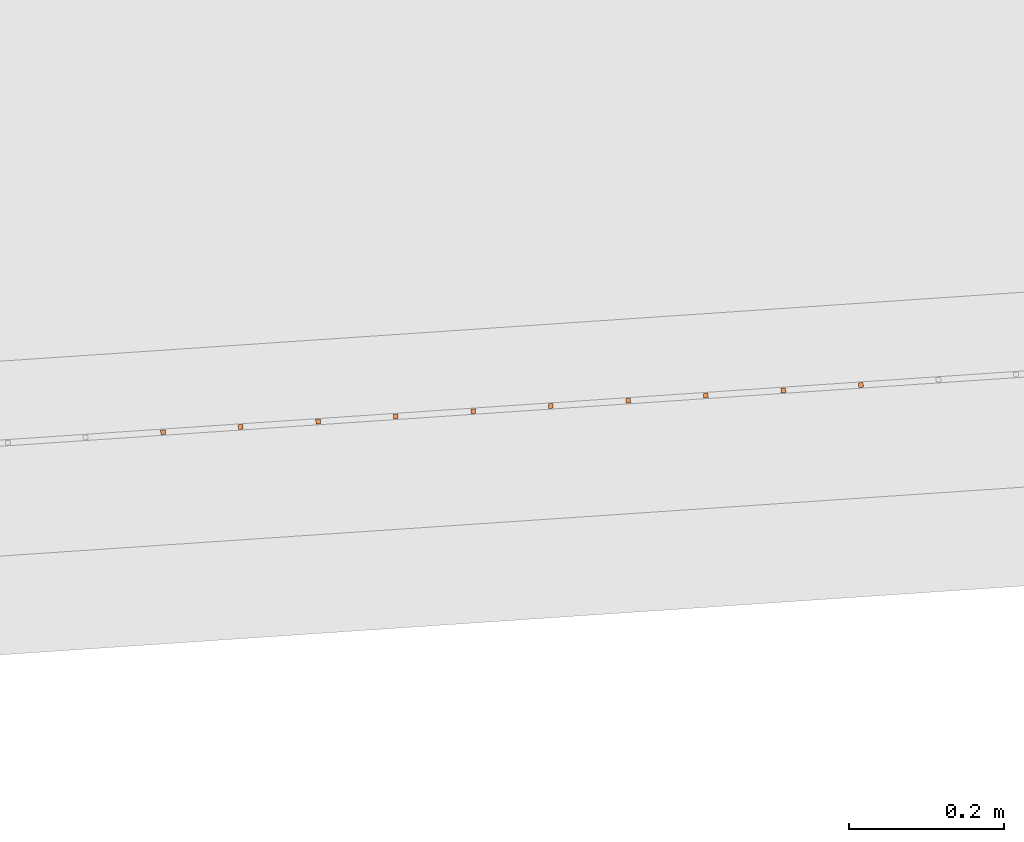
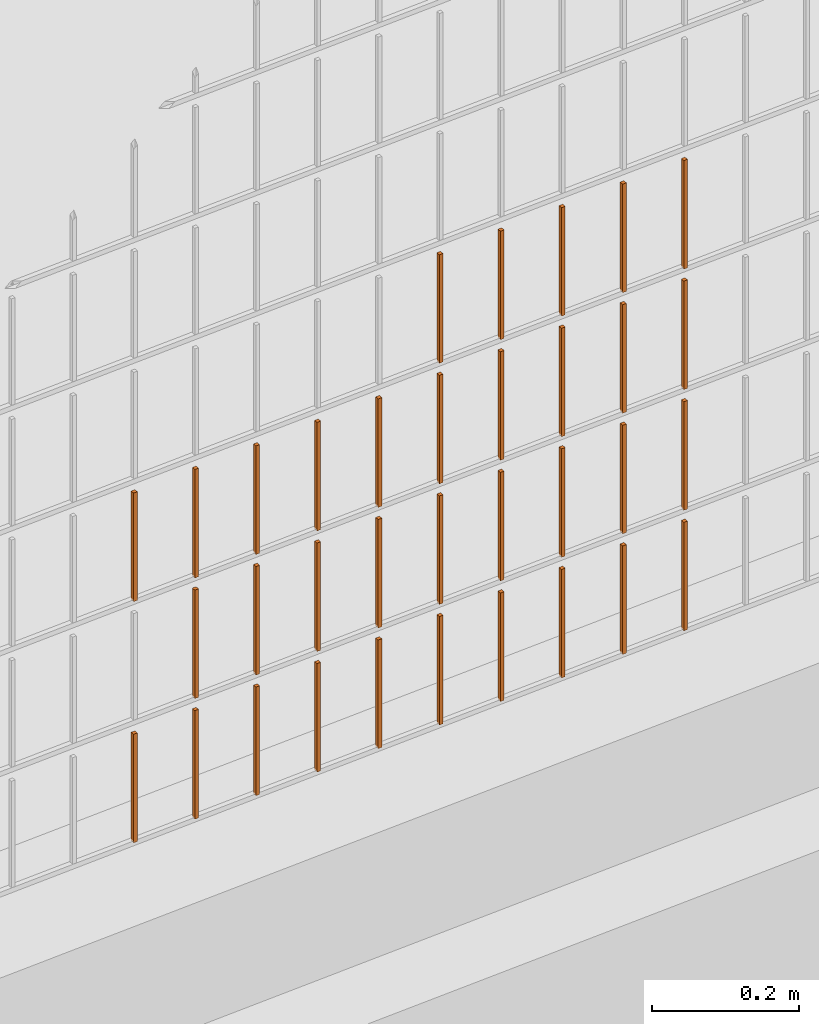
# One storey, part 340 of 1809: 34 proxies, 1 element without a shape of its own.
"""IFC2X3 building model written with IfcOpenShell, lengths in millimetres."""

import ifcopenshell
import ifcopenshell.guid

model = None  # the IFC model being written
_history = None  # IfcOwnerHistory: only IFC2X3 demands one
_inside = {}  # id of a spatial element -> (the spatial element, [elements in it])
_under = {}  # id of a project, library or spatial element -> (it, [spatial elements below it])
_declared = {}  # id of a project -> (the project, [libraries it declares])
_typed = {}  # id of a type object -> (the type object, [elements of that type])
_made_of = {}  # id of a material, layer set ... -> (it, [elements and type objects made of it])


def new_model(schema):
    """Start an empty IFC model of exactly this schema.

    Asked for "IFC4X3", IfcOpenShell would pick the latest addendum, in which some entities
    have other attributes; the version numbers below select the first issue.
    IFC2X3 requires an IfcOwnerHistory on every rooted entity: one is made here for all.
    """
    global model, _history
    if schema == "IFC4X3":
        model = ifcopenshell.file(schema_version=(4, 3, 0, 0))
    else:
        model = ifcopenshell.file(schema=schema)
    _inside.clear()
    _under.clear()
    _declared.clear()
    _typed.clear()
    _made_of.clear()
    _history = None
    if model.schema == "IFC2X3":
        org = make("IfcOrganization", Name="unknown")
        user = make(
            "IfcPersonAndOrganization",
            ThePerson=make("IfcPerson", FamilyName="unknown"),
            TheOrganization=org,
        )
        app = make(
            "IfcApplication",
            ApplicationDeveloper=org,
            Version="unknown",
            ApplicationFullName="unknown",
            ApplicationIdentifier="unknown",
        )
        _history = make(
            "IfcOwnerHistory",
            OwningUser=user,
            OwningApplication=app,
            ChangeAction="ADDED",
            CreationDate=0,
        )
    return model


def make(cls, **values):
    """One entity of the class cls with the attributes given. An attribute that is None is left unset."""
    return model.create_entity(
        cls, **{name: value for name, value in values.items() if value is not None}
    )


def entity(cls, *values):
    """Any entity or typed value of the class cls, its attributes in the order of the schema. None: left unset."""
    e = model.create_entity(cls)
    for i, value in enumerate(values):
        if value is not None:
            e[i] = value
    return e


def rooted(cls, **values):
    """An entity with a GlobalId (a new one), such as an element, a storey or a relation."""
    return make(cls, GlobalId=ifcopenshell.guid.new(), OwnerHistory=_history, **values)


def si_unit(unit_type, name, prefix=None):
    """IfcSIUnit, for example si_unit("LENGTHUNIT", "METRE", prefix="MILLI")."""
    return make("IfcSIUnit", UnitType=unit_type, Prefix=prefix, Name=name)


def converted_unit(unit_type, name, factor, base, dimensions=None, offset=None):
    """IfcConversionBasedUnit, such as the inch: factor (a typed value) times the base unit."""
    return make(
        "IfcConversionBasedUnit"
        if offset is None
        else "IfcConversionBasedUnitWithOffset",
        ConversionOffset=offset,
        Dimensions=None
        if dimensions is None
        else entity("IfcDimensionalExponents", *dimensions),
        UnitType=unit_type,
        Name=name,
        ConversionFactor=make(
            "IfcMeasureWithUnit", ValueComponent=factor, UnitComponent=base
        ),
    )


def derived_unit(unit_type, elements):
    """IfcDerivedUnit: a product of units, each with its exponent."""
    return make(
        "IfcDerivedUnit",
        Elements=[
            make("IfcDerivedUnitElement", Unit=unit, Exponent=power)
            for unit, power in elements
        ],
        UnitType=unit_type,
    )


def money_unit(currency):
    """IfcMonetaryUnit."""
    return make("IfcMonetaryUnit", Currency=currency)


def assignment(units):
    """IfcUnitAssignment: the units of a project."""
    return None if units is None else make("IfcUnitAssignment", Units=units)


def point(xyz):
    """IfcCartesianPoint."""
    return None if xyz is None else make("IfcCartesianPoint", Coordinates=xyz)


def direction(xyz):
    """IfcDirection."""
    return None if xyz is None else make("IfcDirection", DirectionRatios=xyz)


def frame(location, z_axis=None, x_axis=None):
    """IfcAxis2Placement3D, a coordinate frame: its origin and axes. An axis left out is left unset."""
    return make(
        "IfcAxis2Placement3D",
        Location=point(location),
        Axis=direction(z_axis),
        RefDirection=direction(x_axis),
    )


def origin_with_axes():
    """The frame at (0, 0, 0) with the z axis (0, 0, 1) and the x axis (1, 0, 0) written out."""
    return frame((0.0, 0.0, 0.0), z_axis=(0.0, 0.0, 1.0), x_axis=(1.0, 0.0, 0.0))


def place(relative_to, where):
    """IfcLocalPlacement: puts the frame where relative to a parent placement (None: the world)."""
    return make(
        "IfcLocalPlacement", PlacementRelTo=relative_to, RelativePlacement=where
    )


def context(
    kind, dimensions, precision=None, world=None, true_north=None, identifier=None
):
    """IfcGeometricRepresentationContext, for example the 3D "Model" context."""
    return make(
        "IfcGeometricRepresentationContext",
        ContextIdentifier=identifier,
        ContextType=kind,
        CoordinateSpaceDimension=dimensions,
        Precision=precision,
        WorldCoordinateSystem=world,
        TrueNorth=true_north,
    )


def subcontext(parent, identifier, kind, view, scale=None):
    """IfcGeometricRepresentationSubContext, for example "Body" below "Model"."""
    return make(
        "IfcGeometricRepresentationSubContext",
        ContextIdentifier=identifier,
        ContextType=kind,
        ParentContext=parent,
        TargetScale=scale,
        TargetView=view,
    )


def project(units=None, contexts=None):
    """IfcProject with its units and contexts."""
    return rooted(
        "IfcProject",
        Name="project",
        RepresentationContexts=contexts,
        UnitsInContext=assignment(units),
    )


def spatial(cls, under=None, at=None, **own):
    """A site, building, storey or space (cls), placed at a placement, below another one or the project."""
    s = rooted(cls, ObjectPlacement=at, **own)
    if under is not None:
        _under.setdefault(under.id(), (under, []))[1].append(s)
    return s


def faces_of(points, faces, orient=None, outer=None):
    """IfcFace entities. A face is a list of loops; a loop is a list of indices into points, from 0.

    orient and outer hold one flag for each loop. By default every Orientation is true, the
    first loop of a face is its IfcFaceOuterBound and the others are IfcFaceBound.
    """
    made = []
    for i, loops in enumerate(faces):
        bounds = []
        for j, loop in enumerate(loops):
            is_outer = j == 0 if outer is None else outer[i][j]
            bounds.append(
                make(
                    "IfcFaceOuterBound" if is_outer else "IfcFaceBound",
                    Bound=make("IfcPolyLoop", Polygon=[points[k] for k in loop]),
                    Orientation=True if orient is None else orient[i][j],
                )
            )
        made.append(make("IfcFace", Bounds=bounds))
    return made


def faceted_brep(points, faces, orient=None, outer=None, voids=None):
    """IfcFacetedBrep: a solid bounded by flat faces; with voids (closed shells), ...WithVoids."""
    shared = [point(p) for p in points]
    hull = make("IfcClosedShell", CfsFaces=faces_of(shared, faces, orient, outer))
    if voids is None:
        return make("IfcFacetedBrep", Outer=hull)
    return make(
        "IfcFacetedBrepWithVoids",
        Outer=hull,
        Voids=[
            make(cls, CfsFaces=faces_of(shared, fs, o, b)) for cls, fs, o, b in voids
        ],
    )


def shape(context_of_items, identifier, shape_type, items):
    """IfcShapeRepresentation: the items that make up one representation, for example the "Body"."""
    return make(
        "IfcShapeRepresentation",
        ContextOfItems=context_of_items,
        RepresentationIdentifier=identifier,
        RepresentationType=shape_type,
        Items=items,
    )


def source(mapping_origin, context_of_items, identifier, shape_type, items):
    """IfcRepresentationMap: a shape defined once, which mapped items show again and again."""
    return make(
        "IfcRepresentationMap",
        MappingOrigin=mapping_origin,
        MappedRepresentation=shape(context_of_items, identifier, shape_type, items),
    )


def transform(
    local_origin,
    x_axis=None,
    y_axis=None,
    z_axis=None,
    scale=None,
    scale2=None,
    scale3=None,
    uniform=True,
):
    """IfcCartesianTransformationOperator3D, or its non-uniform kind. x_axis, y_axis, z_axis: its Axis1, 2, 3."""
    if uniform:
        return make(
            "IfcCartesianTransformationOperator3D",
            Axis1=direction(x_axis),
            Axis2=direction(y_axis),
            LocalOrigin=point(local_origin),
            Scale=scale,
            Axis3=direction(z_axis),
        )
    return make(
        "IfcCartesianTransformationOperator3DnonUniform",
        Axis1=direction(x_axis),
        Axis2=direction(y_axis),
        LocalOrigin=point(local_origin),
        Scale=scale,
        Axis3=direction(z_axis),
        Scale2=scale2,
        Scale3=scale3,
    )


def mapped(mapping_source, mapping_target):
    """IfcMappedItem: shows the shape of a source again, moved by a transform."""
    return make(
        "IfcMappedItem", MappingSource=mapping_source, MappingTarget=mapping_target
    )


def material(Name=None, Category=None):
    """IfcMaterial."""
    return make("IfcMaterial", Name=Name, Category=Category)


def made_of(thing, what):
    """Note that an element or type object is made of a material, layer set ...; save() writes the relation."""
    if what is not None:
        _made_of.setdefault(what.id(), (what, []))[1].append(thing)
    return thing


def type_object(cls, material=None, **own):
    """A type object (cls), such as IfcWallType, which elements share."""
    return made_of(rooted(cls, **own), material)


def element(
    cls,
    number,
    at=None,
    inside=None,
    cuts=None,
    type_object=None,
    material=None,
    context=None,
    identifier="Body",
    shape_type=None,
    held_by="IfcProductDefinitionShape",
    body=None,
    shapes=None,
    **own,
):
    """One element of the class cls, such as IfcWall. Its Tag is "e" and its number.

    at: its placement. inside: the storey or other place that contains it. cuts: it is an
    opening in that element (IfcRelVoidsElement). A single representation is given by context,
    identifier, shape_type and body (its items); several are given by shapes. held_by: the class
    of the entity that holds the representations. save() writes the other relations.
    """
    e = rooted(cls, Tag="e%d" % number, ObjectPlacement=at, **own)
    if body is not None:
        shapes = [shape(context, identifier, shape_type, body)]
    if shapes is not None:
        e.Representation = make(held_by, Representations=shapes)
    if inside is not None:
        _inside.setdefault(inside.id(), (inside, []))[1].append(e)
    if cuts is not None:
        rooted(
            "IfcRelVoidsElement", RelatingBuildingElement=cuts, RelatedOpeningElement=e
        )
    if type_object is not None:
        _typed.setdefault(type_object.id(), (type_object, []))[1].append(e)
    return made_of(e, material)


def aggregate(whole, parts):
    """IfcRelAggregates: a whole, such as a stair, and the parts it consists of."""
    return rooted("IfcRelAggregates", RelatingObject=whole, RelatedObjects=parts)


def save(model, path):
    """Write the relations noted so far, then the file.

    IfcRelAggregates (storeys below a building ...), IfcRelContainedInSpatialStructure (elements
    in a storey), IfcRelDefinesByType, IfcRelAssociatesMaterial and IfcRelDeclares: one each for
    every whole, place, type object, material and project.
    """
    for whole, parts in _under.values():
        aggregate(whole, parts)
    for where, things in _inside.values():
        rooted(
            "IfcRelContainedInSpatialStructure",
            RelatedElements=things,
            RelatingStructure=where,
        )
    for kind, things in _typed.values():
        rooted("IfcRelDefinesByType", RelatedObjects=things, RelatingType=kind)
    for what, things in _made_of.values():
        rooted("IfcRelAssociatesMaterial", RelatedObjects=things, RelatingMaterial=what)
    for by, libraries in _declared.values():
        rooted("IfcRelDeclares", RelatingContext=by, RelatedDefinitions=libraries)
    model.write(path)


model = new_model("IFC2X3")

# Units and contexts
model_context = context("Model", 3, precision=0.01, world=origin_with_axes(), true_north=direction((0.0, 1.0)))
body_context = subcontext(model_context, "Body", "Model", "MODEL_VIEW")
ifc_project = project(units=[si_unit("LENGTHUNIT", "METRE", prefix="MILLI"), si_unit("AREAUNIT", "SQUARE_METRE"), si_unit("VOLUMEUNIT", "CUBIC_METRE"), converted_unit("PLANEANGLEUNIT", "DEGREE", entity("IfcPlaneAngleMeasure", 0.0174532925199), si_unit("PLANEANGLEUNIT", "RADIAN"), dimensions=[0, 0, 0, 0, 0, 0, 0]), si_unit("SOLIDANGLEUNIT", "STERADIAN"), money_unit("EUR"), converted_unit("TIMEUNIT", "Year", entity("IfcTimeMeasure", 31556926.0), si_unit("TIMEUNIT", "SECOND"), dimensions=[0, 0, 1, 0, 0, 0, 0]), si_unit("MASSUNIT", "GRAM", prefix="KILO"), si_unit("THERMODYNAMICTEMPERATUREUNIT", "DEGREE_CELSIUS"), si_unit("LUMINOUSINTENSITYUNIT", "LUMEN"), si_unit("ENERGYUNIT", "JOULE", prefix="MEGA"), derived_unit("THERMALCONDUCTANCEUNIT", [(si_unit("POWERUNIT", "WATT"), 1), (si_unit("LENGTHUNIT", "METRE"), -1), (si_unit("THERMODYNAMICTEMPERATUREUNIT", "KELVIN"), -1)]), derived_unit("SPECIFICHEATCAPACITYUNIT", [(si_unit("ENERGYUNIT", "JOULE"), 1), (si_unit("MASSUNIT", "GRAM", prefix="KILO"), -1), (si_unit("THERMODYNAMICTEMPERATUREUNIT", "KELVIN"), -1)]), derived_unit("MASSDENSITYUNIT", [(si_unit("MASSUNIT", "GRAM", prefix="KILO"), 1), (si_unit("VOLUMEUNIT", "CUBIC_METRE"), -1)])], contexts=[model_context])

# Site, building, storey
site_placement = place(None, origin_with_axes())
site = spatial("IfcSite", under=ifc_project, at=site_placement, Name="Politse- ja Piirivalveameti ning Päästeameti ühishoone", CompositionType="ELEMENT")
building_placement = place(site_placement, origin_with_axes())
building = spatial("IfcBuilding", under=site, at=building_placement, Name="Politse- ja Piirivalveameti ning Päästeameti ühishoone", CompositionType="ELEMENT")
storey_placement = place(building_placement, origin_with_axes())
storey = spatial("IfcBuildingStorey", under=building, at=storey_placement, Name="Esimene korrus", CompositionType="ELEMENT", Elevation=0.0)

# Proxies
building_element_proxy_type_1 = type_object("IfcBuildingElementProxyType", Name="Railing Type", PredefinedType="NOTDEFINED")
proxy_1_placement = place(storey_placement, frame((89252.001212, -29183.4766571, 203.661247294), z_axis=(0.0, 0.0, 1.0), x_axis=(1.0, 0.0, 0.0)))
proxy_1 = element("IfcBuildingElementProxy", 1, at=proxy_1_placement, inside=storey, type_object=building_element_proxy_type_1, Name="PIIRDEAED")
ifc_material = material(Name="ET-03_Raud")
building_element_proxy_type_2 = type_object("IfcBuildingElementProxyType", Name="IfcBuildingElementProxy", PredefinedType="NOTDEFINED")
shared_shape_1 = source(origin_with_axes(), body_context, "Body", "Brep", [
    faceted_brep([(3.0, 3.0, -0.000752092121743), (-3.0, 3.0, -0.000752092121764), (-3.0, 3.0, 179.99926046), (3.0, 3.0, 179.99926046), (3.0, -3.0, 0.000752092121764), (-3.0, -3.0, 0.000752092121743), (-3.0, -3.0, 180.000764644), (3.0, -3.0, 180.000764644)], [[[0, 1, 2, 3]], [[0, 4, 5, 1]], [[1, 5, 6, 2]], [[3, 2, 6, 7]], [[4, 0, 3, 7]], [[5, 4, 7, 6]]]),
])
proxy_2_placement = place(proxy_1_placement, frame((-30557.0591203, -19361.788787, 19.5563552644), z_axis=(0.0, 0.0, 1.0), x_axis=(1.0, 0.0, 0.0)))
proxy_2 = element("IfcBuildingElementProxy", 2, at=proxy_2_placement, type_object=building_element_proxy_type_2, material=ifc_material, Name="BALUSTER - 001", context=body_context, shape_type="MappedRepresentation", body=[
    mapped(shared_shape_1, transform((0.0, 0.0, 0.0), x_axis=(-0.0673926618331, 0.997726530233, 0.0), y_axis=(-0.997726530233, -0.0673926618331, 0.0), z_axis=(0.0, 0.0, 1.0))),
])
shared_shape_2 = source(origin_with_axes(), body_context, "Body", "Brep", [
    faceted_brep([(3.0, 3.0, -0.000752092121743), (-3.0, 3.0, -0.000752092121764), (-3.0, 3.0, 179.99926046), (3.0, 3.0, 179.99926046), (3.0, -3.0, 0.000752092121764), (-3.0, -3.0, 0.000752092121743), (-3.0, -3.0, 180.000764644), (3.0, -3.0, 180.000764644)], [[[0, 1, 2, 3]], [[0, 4, 5, 1]], [[1, 5, 6, 2]], [[3, 2, 6, 7]], [[4, 0, 3, 7]], [[5, 4, 7, 6]]]),
])
proxy_3_placement = place(proxy_1_placement, frame((-30557.0591203, -19361.788787, 219.556355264), z_axis=(0.0, 0.0, 1.0), x_axis=(1.0, 0.0, 0.0)))
proxy_3 = element("IfcBuildingElementProxy", 3, at=proxy_3_placement, type_object=building_element_proxy_type_2, material=ifc_material, Name="BALUSTER - 001", context=body_context, shape_type="MappedRepresentation", body=[
    mapped(shared_shape_2, transform((0.0, 0.0, 0.0), x_axis=(-0.0673926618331, 0.997726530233, 0.0), y_axis=(-0.997726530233, -0.0673926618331, 0.0), z_axis=(0.0, 0.0, 1.0))),
])
shared_shape_3 = source(origin_with_axes(), body_context, "Body", "Brep", [
    faceted_brep([(3.0, 3.0, -0.000752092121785), (-3.0, 3.0, -0.000752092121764), (-3.0, 3.0, 179.99926046), (3.0, 3.0, 179.99926046), (3.0, -3.0, 0.000752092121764), (-3.0, -3.0, 0.000752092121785), (-3.0, -3.0, 180.000764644), (3.0, -3.0, 180.000764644)], [[[0, 1, 2, 3]], [[0, 4, 5, 1]], [[1, 5, 6, 2]], [[3, 2, 6, 7]], [[4, 0, 3, 7]], [[5, 4, 7, 6]]]),
])
proxy_4_placement = place(proxy_1_placement, frame((-30257.7411612, -19341.5709885, 419.631564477), z_axis=(0.0, 0.0, 1.0), x_axis=(1.0, 0.0, 0.0)))
proxy_4 = element("IfcBuildingElementProxy", 4, at=proxy_4_placement, type_object=building_element_proxy_type_2, material=ifc_material, Name="BALUSTER - 001", context=body_context, shape_type="MappedRepresentation", body=[
    mapped(shared_shape_3, transform((0.0, 0.0, 0.0), x_axis=(-0.0673926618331, 0.997726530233, 0.0), y_axis=(-0.997726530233, -0.0673926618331, 0.0), z_axis=(0.0, 0.0, 1.0))),
])
shared_shape_4 = source(origin_with_axes(), body_context, "Body", "Brep", [
    faceted_brep([(3.0, 3.0, -0.000752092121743), (-3.0, 3.0, -0.000752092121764), (-3.0, 3.0, 179.99926046), (3.0, 3.0, 179.99926046), (3.0, -3.0, 0.000752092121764), (-3.0, -3.0, 0.000752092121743), (-3.0, -3.0, 180.000764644), (3.0, -3.0, 180.000764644)], [[[0, 1, 2, 3]], [[0, 4, 5, 1]], [[1, 5, 6, 2]], [[3, 2, 6, 7]], [[4, 0, 3, 7]], [[5, 4, 7, 6]]]),
])
proxy_5_placement = place(proxy_1_placement, frame((-30557.0591203, -19361.788787, 419.556355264), z_axis=(0.0, 0.0, 1.0), x_axis=(1.0, 0.0, 0.0)))
proxy_5 = element("IfcBuildingElementProxy", 5, at=proxy_5_placement, type_object=building_element_proxy_type_2, material=ifc_material, Name="BALUSTER - 001", context=body_context, shape_type="MappedRepresentation", body=[
    mapped(shared_shape_4, transform((0.0, 0.0, 0.0), x_axis=(-0.0673926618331, 0.997726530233, 0.0), y_axis=(-0.997726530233, -0.0673926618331, 0.0), z_axis=(0.0, 0.0, 1.0))),
])
shared_shape_5 = source(origin_with_axes(), body_context, "Body", "Brep", [
    faceted_brep([(3.0, 3.0, -0.000752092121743), (-3.0, 3.0, -0.000752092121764), (-3.0, 3.0, 179.99926046), (3.0, 3.0, 179.99926046), (3.0, -3.0, 0.000752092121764), (-3.0, -3.0, 0.000752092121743), (-3.0, -3.0, 180.000764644), (3.0, -3.0, 180.000764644)], [[[0, 1, 2, 3]], [[0, 4, 5, 1]], [[1, 5, 6, 2]], [[3, 2, 6, 7]], [[4, 0, 3, 7]], [[5, 4, 7, 6]]]),
])
proxy_6_placement = place(proxy_1_placement, frame((-30557.0591203, -19361.788787, 619.556355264), z_axis=(0.0, 0.0, 1.0), x_axis=(1.0, 0.0, 0.0)))
proxy_6 = element("IfcBuildingElementProxy", 6, at=proxy_6_placement, type_object=building_element_proxy_type_2, material=ifc_material, Name="BALUSTER - 001", context=body_context, shape_type="MappedRepresentation", body=[
    mapped(shared_shape_5, transform((0.0, 0.0, 0.0), x_axis=(-0.0673926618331, 0.997726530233, 0.0), y_axis=(-0.997726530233, -0.0673926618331, 0.0), z_axis=(0.0, 0.0, 1.0))),
])
shared_shape_6 = source(origin_with_axes(), body_context, "Body", "Brep", [
    faceted_brep([(3.0, 3.0, -0.000752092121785), (-3.0, 3.0, -0.000752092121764), (-3.0, 3.0, 179.99926046), (3.0, 3.0, 179.99926046), (3.0, -3.0, 0.000752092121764), (-3.0, -3.0, 0.000752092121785), (-3.0, -3.0, 180.000764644), (3.0, -3.0, 180.000764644)], [[[0, 1, 2, 3]], [[0, 4, 5, 1]], [[1, 5, 6, 2]], [[3, 2, 6, 7]], [[4, 0, 3, 7]], [[5, 4, 7, 6]]]),
])
proxy_7_placement = place(proxy_1_placement, frame((-30257.7411612, -19341.5709885, 619.631564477), z_axis=(0.0, 0.0, 1.0), x_axis=(1.0, 0.0, 0.0)))
proxy_7 = element("IfcBuildingElementProxy", 7, at=proxy_7_placement, type_object=building_element_proxy_type_2, material=ifc_material, Name="BALUSTER - 001", context=body_context, shape_type="MappedRepresentation", body=[
    mapped(shared_shape_6, transform((0.0, 0.0, 0.0), x_axis=(-0.0673926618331, 0.997726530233, 0.0), y_axis=(-0.997726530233, -0.0673926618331, 0.0), z_axis=(0.0, 0.0, 1.0))),
])
shared_shape_7 = source(origin_with_axes(), body_context, "Body", "Brep", [
    faceted_brep([(3.0, 3.0, -0.000752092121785), (-3.0, 3.0, -0.000752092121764), (-3.0, 3.0, 179.99926046), (3.0, 3.0, 179.99926046), (3.0, -3.0, 0.000752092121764), (-3.0, -3.0, 0.000752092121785), (-3.0, -3.0, 180.000764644), (3.0, -3.0, 180.000764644)], [[[0, 1, 2, 3]], [[0, 4, 5, 1]], [[1, 5, 6, 2]], [[3, 2, 6, 7]], [[4, 0, 3, 7]], [[5, 4, 7, 6]]]),
])
proxy_8_placement = place(proxy_1_placement, frame((-30257.7411612, -19341.5709885, 19.6315644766), z_axis=(0.0, 0.0, 1.0), x_axis=(1.0, 0.0, 0.0)))
proxy_8 = element("IfcBuildingElementProxy", 8, at=proxy_8_placement, type_object=building_element_proxy_type_2, material=ifc_material, Name="BALUSTER - 001", context=body_context, shape_type="MappedRepresentation", body=[
    mapped(shared_shape_7, transform((0.0, 0.0, 0.0), x_axis=(-0.0673926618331, 0.997726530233, 0.0), y_axis=(-0.997726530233, -0.0673926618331, 0.0), z_axis=(0.0, 0.0, 1.0))),
])
shared_shape_8 = source(origin_with_axes(), body_context, "Body", "Brep", [
    faceted_brep([(3.0, 3.0, -0.000752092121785), (-3.0, 3.0, -0.000752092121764), (-3.0, 3.0, 179.99926046), (3.0, 3.0, 179.99926046), (3.0, -3.0, 0.000752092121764), (-3.0, -3.0, 0.000752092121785), (-3.0, -3.0, 180.000764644), (3.0, -3.0, 180.000764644)], [[[0, 1, 2, 3]], [[0, 4, 5, 1]], [[1, 5, 6, 2]], [[3, 2, 6, 7]], [[4, 0, 3, 7]], [[5, 4, 7, 6]]]),
])
proxy_9_placement = place(proxy_1_placement, frame((-30257.7411612, -19341.5709885, 219.631564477), z_axis=(0.0, 0.0, 1.0), x_axis=(1.0, 0.0, 0.0)))
proxy_9 = element("IfcBuildingElementProxy", 9, at=proxy_9_placement, type_object=building_element_proxy_type_2, material=ifc_material, Name="BALUSTER - 001", context=body_context, shape_type="MappedRepresentation", body=[
    mapped(shared_shape_8, transform((0.0, 0.0, 0.0), x_axis=(-0.0673926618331, 0.997726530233, 0.0), y_axis=(-0.997726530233, -0.0673926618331, 0.0), z_axis=(0.0, 0.0, 1.0))),
])
shared_shape_9 = source(origin_with_axes(), body_context, "Body", "Brep", [
    faceted_brep([(3.0, 3.0, -0.000752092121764), (-3.0, 3.0, -0.000752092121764), (-3.0, 3.0, 179.99926046), (3.0, 3.0, 179.99926046), (3.0, -3.0, 0.000752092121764), (-3.0, -3.0, 0.000752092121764), (-3.0, -3.0, 180.000764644), (3.0, -3.0, 180.000764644)], [[[0, 1, 2, 3]], [[0, 4, 5, 1]], [[1, 5, 6, 2]], [[3, 2, 6, 7]], [[4, 0, 3, 7]], [[5, 4, 7, 6]]]),
])
proxy_10_placement = place(proxy_1_placement, frame((-30856.3770794, -19382.0065856, 19.4811460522), z_axis=(0.0, 0.0, 1.0), x_axis=(1.0, 0.0, 0.0)))
proxy_10 = element("IfcBuildingElementProxy", 10, at=proxy_10_placement, type_object=building_element_proxy_type_2, material=ifc_material, Name="BALUSTER - 001", context=body_context, shape_type="MappedRepresentation", body=[
    mapped(shared_shape_9, transform((0.0, 0.0, 0.0), x_axis=(-0.0673926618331, 0.997726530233, 0.0), y_axis=(-0.997726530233, -0.0673926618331, 0.0), z_axis=(0.0, 0.0, 1.0))),
])
shared_shape_10 = source(origin_with_axes(), body_context, "Body", "Brep", [
    faceted_brep([(3.0, 3.0, -0.000752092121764), (-3.0, 3.0, -0.000752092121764), (-3.0, 3.0, 179.99926046), (3.0, 3.0, 179.99926046), (3.0, -3.0, 0.000752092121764), (-3.0, -3.0, 0.000752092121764), (-3.0, -3.0, 180.000764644), (3.0, -3.0, 180.000764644)], [[[0, 1, 2, 3]], [[0, 4, 5, 1]], [[1, 5, 6, 2]], [[3, 2, 6, 7]], [[4, 0, 3, 7]], [[5, 4, 7, 6]]]),
])
proxy_11_placement = place(proxy_1_placement, frame((-30856.3770794, -19382.0065856, 219.481146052), z_axis=(0.0, 0.0, 1.0), x_axis=(1.0, 0.0, 0.0)))
proxy_11 = element("IfcBuildingElementProxy", 11, at=proxy_11_placement, type_object=building_element_proxy_type_2, material=ifc_material, Name="BALUSTER - 001", context=body_context, shape_type="MappedRepresentation", body=[
    mapped(shared_shape_10, transform((0.0, 0.0, 0.0), x_axis=(-0.0673926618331, 0.997726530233, 0.0), y_axis=(-0.997726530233, -0.0673926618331, 0.0), z_axis=(0.0, 0.0, 1.0))),
])
proxy_12_placement = place(proxy_1_placement, frame((-30856.3770794, -19382.0065856, 419.481146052), z_axis=(0.0, 0.0, 1.0), x_axis=(1.0, 0.0, 0.0)))
proxy_12 = element("IfcBuildingElementProxy", 12, at=proxy_12_placement, type_object=building_element_proxy_type_2, material=ifc_material, Name="BALUSTER - 001", context=body_context, shape_type="MappedRepresentation", body=[
    mapped(shared_shape_10, transform((0.0, 0.0, 0.0), x_axis=(-0.0673926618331, 0.997726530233, 0.0), y_axis=(-0.997726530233, -0.0673926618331, 0.0), z_axis=(0.0, 0.0, 1.0))),
])
proxy_13_placement = place(proxy_1_placement, frame((-30956.1497324, -19388.7458517, 419.456076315), z_axis=(0.0, 0.0, 1.0), x_axis=(1.0, 0.0, 0.0)))
proxy_13 = element("IfcBuildingElementProxy", 13, at=proxy_13_placement, type_object=building_element_proxy_type_2, material=ifc_material, Name="BALUSTER - 001", context=body_context, shape_type="MappedRepresentation", body=[
    mapped(shared_shape_10, transform((0.0, 0.0, 0.0), x_axis=(-0.0673926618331, 0.997726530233, 0.0), y_axis=(-0.997726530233, -0.0673926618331, 0.0), z_axis=(0.0, 0.0, 1.0))),
])
shared_shape_11 = source(origin_with_axes(), body_context, "Body", "Brep", [
    faceted_brep([(3.0, 3.0, -0.000752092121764), (-3.0, 3.0, -0.000752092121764), (-3.0, 3.0, 179.99926046), (3.0, 3.0, 179.99926046), (3.0, -3.0, 0.000752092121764), (-3.0, -3.0, 0.000752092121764), (-3.0, -3.0, 180.000764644), (3.0, -3.0, 180.000764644)], [[[0, 1, 2, 3]], [[0, 4, 5, 1]], [[1, 5, 6, 2]], [[3, 2, 6, 7]], [[4, 0, 3, 7]], [[5, 4, 7, 6]]]),
])
proxy_14_placement = place(proxy_1_placement, frame((-30457.2864673, -19355.0495208, 219.581425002), z_axis=(0.0, 0.0, 1.0), x_axis=(1.0, 0.0, 0.0)))
proxy_14 = element("IfcBuildingElementProxy", 14, at=proxy_14_placement, type_object=building_element_proxy_type_2, material=ifc_material, Name="BALUSTER - 001", context=body_context, shape_type="MappedRepresentation", body=[
    mapped(shared_shape_11, transform((0.0, 0.0, 0.0), x_axis=(-0.0673926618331, 0.997726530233, 0.0), y_axis=(-0.997726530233, -0.0673926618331, 0.0), z_axis=(0.0, 0.0, 1.0))),
])
proxy_15_placement = place(proxy_1_placement, frame((-30457.2864673, -19355.0495208, 619.581425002), z_axis=(0.0, 0.0, 1.0), x_axis=(1.0, 0.0, 0.0)))
proxy_15 = element("IfcBuildingElementProxy", 15, at=proxy_15_placement, type_object=building_element_proxy_type_2, material=ifc_material, Name="BALUSTER - 001", context=body_context, shape_type="MappedRepresentation", body=[
    mapped(shared_shape_11, transform((0.0, 0.0, 0.0), x_axis=(-0.0673926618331, 0.997726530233, 0.0), y_axis=(-0.997726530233, -0.0673926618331, 0.0), z_axis=(0.0, 0.0, 1.0))),
])
shared_shape_12 = source(origin_with_axes(), body_context, "Body", "Brep", [
    faceted_brep([(3.0, 3.0, -0.000752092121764), (-3.0, 3.0, -0.000752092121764), (-3.0, 3.0, 179.99926046), (3.0, 3.0, 179.99926046), (3.0, -3.0, 0.000752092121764), (-3.0, -3.0, 0.000752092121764), (-3.0, -3.0, 180.000764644), (3.0, -3.0, 180.000764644)], [[[0, 1, 2, 3]], [[0, 4, 5, 1]], [[1, 5, 6, 2]], [[3, 2, 6, 7]], [[4, 0, 3, 7]], [[5, 4, 7, 6]]]),
])
proxy_16_placement = place(proxy_1_placement, frame((-30357.5138143, -19348.3102546, 19.6064947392), z_axis=(0.0, 0.0, 1.0), x_axis=(1.0, 0.0, 0.0)))
proxy_16 = element("IfcBuildingElementProxy", 16, at=proxy_16_placement, type_object=building_element_proxy_type_2, material=ifc_material, Name="BALUSTER - 001", context=body_context, shape_type="MappedRepresentation", body=[
    mapped(shared_shape_12, transform((0.0, 0.0, 0.0), x_axis=(-0.0673926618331, 0.997726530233, 0.0), y_axis=(-0.997726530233, -0.0673926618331, 0.0), z_axis=(0.0, 0.0, 1.0))),
])
shared_shape_13 = source(origin_with_axes(), body_context, "Body", "Brep", [
    faceted_brep([(3.0, 3.0, -0.000752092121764), (-3.0, 3.0, -0.000752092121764), (-3.0, 3.0, 179.99926046), (3.0, 3.0, 179.99926046), (3.0, -3.0, 0.000752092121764), (-3.0, -3.0, 0.000752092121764), (-3.0, -3.0, 180.000764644), (3.0, -3.0, 180.000764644)], [[[0, 1, 2, 3]], [[0, 4, 5, 1]], [[1, 5, 6, 2]], [[3, 2, 6, 7]], [[4, 0, 3, 7]], [[5, 4, 7, 6]]]),
])
proxy_17_placement = place(proxy_1_placement, frame((-30357.5138143, -19348.3102546, 219.606494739), z_axis=(0.0, 0.0, 1.0), x_axis=(1.0, 0.0, 0.0)))
proxy_17 = element("IfcBuildingElementProxy", 17, at=proxy_17_placement, type_object=building_element_proxy_type_2, material=ifc_material, Name="BALUSTER - 001", context=body_context, shape_type="MappedRepresentation", body=[
    mapped(shared_shape_13, transform((0.0, 0.0, 0.0), x_axis=(-0.0673926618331, 0.997726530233, 0.0), y_axis=(-0.997726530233, -0.0673926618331, 0.0), z_axis=(0.0, 0.0, 1.0))),
])
proxy_18_placement = place(proxy_1_placement, frame((-30357.5138143, -19348.3102546, 419.606494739), z_axis=(0.0, 0.0, 1.0), x_axis=(1.0, 0.0, 0.0)))
proxy_18 = element("IfcBuildingElementProxy", 18, at=proxy_18_placement, type_object=building_element_proxy_type_2, material=ifc_material, Name="BALUSTER - 001", context=body_context, shape_type="MappedRepresentation", body=[
    mapped(shared_shape_13, transform((0.0, 0.0, 0.0), x_axis=(-0.0673926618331, 0.997726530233, 0.0), y_axis=(-0.997726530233, -0.0673926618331, 0.0), z_axis=(0.0, 0.0, 1.0))),
])
shared_shape_14 = source(origin_with_axes(), body_context, "Body", "Brep", [
    faceted_brep([(3.0, 3.0, -0.000752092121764), (-3.0, 3.0, -0.000752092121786), (-3.0, 3.0, 179.99926046), (3.0, 3.0, 179.99926046), (3.0, -3.0, 0.000752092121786), (-3.0, -3.0, 0.000752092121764), (-3.0, -3.0, 180.000764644), (3.0, -3.0, 180.000764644)], [[[0, 1, 2, 3]], [[0, 4, 5, 1]], [[1, 5, 6, 2]], [[3, 2, 6, 7]], [[4, 0, 3, 7]], [[5, 4, 7, 6]]]),
])
proxy_19_placement = place(proxy_1_placement, frame((-31155.6950385, -19402.2243841, 419.40593684), z_axis=(0.0, 0.0, 1.0), x_axis=(1.0, 0.0, 0.0)))
proxy_19 = element("IfcBuildingElementProxy", 19, at=proxy_19_placement, type_object=building_element_proxy_type_2, material=ifc_material, Name="BALUSTER - 001", context=body_context, shape_type="MappedRepresentation", body=[
    mapped(shared_shape_14, transform((0.0, 0.0, 0.0), x_axis=(-0.0673926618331, 0.997726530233, 0.0), y_axis=(-0.997726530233, -0.0673926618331, 0.0), z_axis=(0.0, 0.0, 1.0))),
])
shared_shape_15 = source(origin_with_axes(), body_context, "Body", "Brep", [
    faceted_brep([(3.0, 3.0, -0.000752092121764), (-3.0, 3.0, -0.000752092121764), (-3.0, 3.0, 179.99926046), (3.0, 3.0, 179.99926046), (3.0, -3.0, 0.000752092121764), (-3.0, -3.0, 0.000752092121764), (-3.0, -3.0, 180.000764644), (3.0, -3.0, 180.000764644)], [[[0, 1, 2, 3]], [[0, 4, 5, 1]], [[1, 5, 6, 2]], [[3, 2, 6, 7]], [[4, 0, 3, 7]], [[5, 4, 7, 6]]]),
])
proxy_20_placement = place(proxy_1_placement, frame((-30357.5138143, -19348.3102546, 619.606494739), z_axis=(0.0, 0.0, 1.0), x_axis=(1.0, 0.0, 0.0)))
proxy_20 = element("IfcBuildingElementProxy", 20, at=proxy_20_placement, type_object=building_element_proxy_type_2, material=ifc_material, Name="BALUSTER - 001", context=body_context, shape_type="MappedRepresentation", body=[
    mapped(shared_shape_15, transform((0.0, 0.0, 0.0), x_axis=(-0.0673926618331, 0.997726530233, 0.0), y_axis=(-0.997726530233, -0.0673926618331, 0.0), z_axis=(0.0, 0.0, 1.0))),
])
shared_shape_16 = source(origin_with_axes(), body_context, "Body", "Brep", [
    faceted_brep([(3.0, 3.0, -0.000752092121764), (-3.0, 3.0, -0.000752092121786), (-3.0, 3.0, 179.99926046), (3.0, 3.0, 179.99926046), (3.0, -3.0, 0.000752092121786), (-3.0, -3.0, 0.000752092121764), (-3.0, -3.0, 180.000764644), (3.0, -3.0, 180.000764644)], [[[0, 1, 2, 3]], [[0, 4, 5, 1]], [[1, 5, 6, 2]], [[3, 2, 6, 7]], [[4, 0, 3, 7]], [[5, 4, 7, 6]]]),
])
proxy_21_placement = place(proxy_1_placement, frame((-31155.6950385, -19402.2243841, 19.4059368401), z_axis=(0.0, 0.0, 1.0), x_axis=(1.0, 0.0, 0.0)))
proxy_21 = element("IfcBuildingElementProxy", 21, at=proxy_21_placement, type_object=building_element_proxy_type_2, material=ifc_material, Name="BALUSTER - 001", context=body_context, shape_type="MappedRepresentation", body=[
    mapped(shared_shape_16, transform((0.0, 0.0, 0.0), x_axis=(-0.0673926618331, 0.997726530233, 0.0), y_axis=(-0.997726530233, -0.0673926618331, 0.0), z_axis=(0.0, 0.0, 1.0))),
])
shared_shape_17 = source(origin_with_axes(), body_context, "Body", "Brep", [
    faceted_brep([(3.0, 3.0, -0.000752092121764), (-3.0, 3.0, -0.000752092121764), (-3.0, 3.0, 179.99926046), (3.0, 3.0, 179.99926046), (3.0, -3.0, 0.000752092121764), (-3.0, -3.0, 0.000752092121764), (-3.0, -3.0, 180.000764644), (3.0, -3.0, 180.000764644)], [[[0, 1, 2, 3]], [[0, 4, 5, 1]], [[1, 5, 6, 2]], [[3, 2, 6, 7]], [[4, 0, 3, 7]], [[5, 4, 7, 6]]]),
])
proxy_22_placement = place(proxy_1_placement, frame((-30956.1497324, -19388.7458517, 19.4560763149), z_axis=(0.0, 0.0, 1.0), x_axis=(1.0, 0.0, 0.0)))
proxy_22 = element("IfcBuildingElementProxy", 22, at=proxy_22_placement, type_object=building_element_proxy_type_2, material=ifc_material, Name="BALUSTER - 001", context=body_context, shape_type="MappedRepresentation", body=[
    mapped(shared_shape_17, transform((0.0, 0.0, 0.0), x_axis=(-0.0673926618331, 0.997726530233, 0.0), y_axis=(-0.997726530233, -0.0673926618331, 0.0), z_axis=(0.0, 0.0, 1.0))),
])
shared_shape_18 = source(origin_with_axes(), body_context, "Body", "Brep", [
    faceted_brep([(3.0, 3.0, -0.000752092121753), (-3.0, 3.0, -0.000752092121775), (-3.0, 3.0, 179.99926046), (3.0, 3.0, 179.99926046), (3.0, -3.0, 0.000752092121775), (-3.0, -3.0, 0.000752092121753), (-3.0, -3.0, 180.000764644), (3.0, -3.0, 180.000764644)], [[[0, 1, 2, 3]], [[0, 4, 5, 1]], [[1, 5, 6, 2]], [[3, 2, 6, 7]], [[4, 0, 3, 7]], [[5, 4, 7, 6]]]),
])
proxy_23_placement = place(proxy_1_placement, frame((-30656.8317733, -19368.5280532, 19.531285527), z_axis=(0.0, 0.0, 1.0), x_axis=(1.0, 0.0, 0.0)))
proxy_23 = element("IfcBuildingElementProxy", 23, at=proxy_23_placement, type_object=building_element_proxy_type_2, material=ifc_material, Name="BALUSTER - 001", context=body_context, shape_type="MappedRepresentation", body=[
    mapped(shared_shape_18, transform((0.0, 0.0, 0.0), x_axis=(-0.0673926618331, 0.997726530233, 0.0), y_axis=(-0.997726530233, -0.0673926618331, 0.0), z_axis=(0.0, 0.0, 1.0))),
])
shared_shape_19 = source(origin_with_axes(), body_context, "Body", "Brep", [
    faceted_brep([(3.0, 3.0, -0.000752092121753), (-3.0, 3.0, -0.000752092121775), (-3.0, 3.0, 179.99926046), (3.0, 3.0, 179.99926046), (3.0, -3.0, 0.000752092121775), (-3.0, -3.0, 0.000752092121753), (-3.0, -3.0, 180.000764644), (3.0, -3.0, 180.000764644)], [[[0, 1, 2, 3]], [[0, 4, 5, 1]], [[1, 5, 6, 2]], [[3, 2, 6, 7]], [[4, 0, 3, 7]], [[5, 4, 7, 6]]]),
])
proxy_24_placement = place(proxy_1_placement, frame((-30656.8317733, -19368.5280532, 419.531285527), z_axis=(0.0, 0.0, 1.0), x_axis=(1.0, 0.0, 0.0)))
proxy_24 = element("IfcBuildingElementProxy", 24, at=proxy_24_placement, type_object=building_element_proxy_type_2, material=ifc_material, Name="BALUSTER - 001", context=body_context, shape_type="MappedRepresentation", body=[
    mapped(shared_shape_19, transform((0.0, 0.0, 0.0), x_axis=(-0.0673926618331, 0.997726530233, 0.0), y_axis=(-0.997726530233, -0.0673926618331, 0.0), z_axis=(0.0, 0.0, 1.0))),
])
proxy_25_placement = place(proxy_1_placement, frame((-30656.8317733, -19368.5280532, 619.531285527), z_axis=(0.0, 0.0, 1.0), x_axis=(1.0, 0.0, 0.0)))
proxy_25 = element("IfcBuildingElementProxy", 25, at=proxy_25_placement, type_object=building_element_proxy_type_2, material=ifc_material, Name="BALUSTER - 001", context=body_context, shape_type="MappedRepresentation", body=[
    mapped(shared_shape_19, transform((0.0, 0.0, 0.0), x_axis=(-0.0673926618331, 0.997726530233, 0.0), y_axis=(-0.997726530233, -0.0673926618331, 0.0), z_axis=(0.0, 0.0, 1.0))),
])
shared_shape_20 = source(origin_with_axes(), body_context, "Body", "Brep", [
    faceted_brep([(3.0, 3.0, -0.000752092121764), (-3.0, 3.0, -0.000752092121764), (-3.0, 3.0, 179.99926046), (3.0, 3.0, 179.99926046), (3.0, -3.0, 0.000752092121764), (-3.0, -3.0, 0.000752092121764), (-3.0, -3.0, 180.000764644), (3.0, -3.0, 180.000764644)], [[[0, 1, 2, 3]], [[0, 4, 5, 1]], [[1, 5, 6, 2]], [[3, 2, 6, 7]], [[4, 0, 3, 7]], [[5, 4, 7, 6]]]),
])
proxy_26_placement = place(proxy_1_placement, frame((-30457.2864673, -19355.0495208, 19.5814250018), z_axis=(0.0, 0.0, 1.0), x_axis=(1.0, 0.0, 0.0)))
proxy_26 = element("IfcBuildingElementProxy", 26, at=proxy_26_placement, type_object=building_element_proxy_type_2, material=ifc_material, Name="BALUSTER - 001", context=body_context, shape_type="MappedRepresentation", body=[
    mapped(shared_shape_20, transform((0.0, 0.0, 0.0), x_axis=(-0.0673926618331, 0.997726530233, 0.0), y_axis=(-0.997726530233, -0.0673926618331, 0.0), z_axis=(0.0, 0.0, 1.0))),
])
shared_shape_21 = source(origin_with_axes(), body_context, "Body", "Brep", [
    faceted_brep([(3.0, 3.0, -0.000752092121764), (-3.0, 3.0, -0.000752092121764), (-3.0, 3.0, 179.99926046), (3.0, 3.0, 179.99926046), (3.0, -3.0, 0.000752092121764), (-3.0, -3.0, 0.000752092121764), (-3.0, -3.0, 180.000764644), (3.0, -3.0, 180.000764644)], [[[0, 1, 2, 3]], [[0, 4, 5, 1]], [[1, 5, 6, 2]], [[3, 2, 6, 7]], [[4, 0, 3, 7]], [[5, 4, 7, 6]]]),
])
proxy_27_placement = place(proxy_1_placement, frame((-30756.6044264, -19375.2673194, 19.5062157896), z_axis=(0.0, 0.0, 1.0), x_axis=(1.0, 0.0, 0.0)))
proxy_27 = element("IfcBuildingElementProxy", 27, at=proxy_27_placement, type_object=building_element_proxy_type_2, material=ifc_material, Name="BALUSTER - 001", context=body_context, shape_type="MappedRepresentation", body=[
    mapped(shared_shape_21, transform((0.0, 0.0, 0.0), x_axis=(-0.0673926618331, 0.997726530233, 0.0), y_axis=(-0.997726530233, -0.0673926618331, 0.0), z_axis=(0.0, 0.0, 1.0))),
])
proxy_28_placement = place(proxy_1_placement, frame((-30756.6044264, -19375.2673194, 219.50621579), z_axis=(0.0, 0.0, 1.0), x_axis=(1.0, 0.0, 0.0)))
proxy_28 = element("IfcBuildingElementProxy", 28, at=proxy_28_placement, type_object=building_element_proxy_type_2, material=ifc_material, Name="BALUSTER - 001", context=body_context, shape_type="MappedRepresentation", body=[
    mapped(shared_shape_21, transform((0.0, 0.0, 0.0), x_axis=(-0.0673926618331, 0.997726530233, 0.0), y_axis=(-0.997726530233, -0.0673926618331, 0.0), z_axis=(0.0, 0.0, 1.0))),
])
shared_shape_22 = source(origin_with_axes(), body_context, "Body", "Brep", [
    faceted_brep([(3.0, 3.0, -0.000752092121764), (-3.0, 3.0, -0.000752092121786), (-3.0, 3.0, 179.99926046), (3.0, 3.0, 179.99926046), (3.0, -3.0, 0.000752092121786), (-3.0, -3.0, 0.000752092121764), (-3.0, -3.0, 180.000764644), (3.0, -3.0, 180.000764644)], [[[0, 1, 2, 3]], [[0, 4, 5, 1]], [[1, 5, 6, 2]], [[3, 2, 6, 7]], [[4, 0, 3, 7]], [[5, 4, 7, 6]]]),
])
proxy_29_placement = place(proxy_1_placement, frame((-31055.9223854, -19395.4851179, 19.4310065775), z_axis=(0.0, 0.0, 1.0), x_axis=(1.0, 0.0, 0.0)))
proxy_29 = element("IfcBuildingElementProxy", 29, at=proxy_29_placement, type_object=building_element_proxy_type_2, material=ifc_material, Name="BALUSTER - 001", context=body_context, shape_type="MappedRepresentation", body=[
    mapped(shared_shape_22, transform((0.0, 0.0, 0.0), x_axis=(-0.0673926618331, 0.997726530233, 0.0), y_axis=(-0.997726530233, -0.0673926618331, 0.0), z_axis=(0.0, 0.0, 1.0))),
])
shared_shape_23 = source(origin_with_axes(), body_context, "Body", "Brep", [
    faceted_brep([(3.0, 3.0, -0.000752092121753), (-3.0, 3.0, -0.000752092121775), (-3.0, 3.0, 179.99926046), (3.0, 3.0, 179.99926046), (3.0, -3.0, 0.000752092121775), (-3.0, -3.0, 0.000752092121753), (-3.0, -3.0, 180.000764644), (3.0, -3.0, 180.000764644)], [[[0, 1, 2, 3]], [[0, 4, 5, 1]], [[1, 5, 6, 2]], [[3, 2, 6, 7]], [[4, 0, 3, 7]], [[5, 4, 7, 6]]]),
])
proxy_30_placement = place(proxy_1_placement, frame((-30656.8317733, -19368.5280532, 219.531285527), z_axis=(0.0, 0.0, 1.0), x_axis=(1.0, 0.0, 0.0)))
proxy_30 = element("IfcBuildingElementProxy", 30, at=proxy_30_placement, type_object=building_element_proxy_type_2, material=ifc_material, Name="BALUSTER - 001", context=body_context, shape_type="MappedRepresentation", body=[
    mapped(shared_shape_23, transform((0.0, 0.0, 0.0), x_axis=(-0.0673926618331, 0.997726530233, 0.0), y_axis=(-0.997726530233, -0.0673926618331, 0.0), z_axis=(0.0, 0.0, 1.0))),
])
shared_shape_24 = source(origin_with_axes(), body_context, "Body", "Brep", [
    faceted_brep([(3.0, 3.0, -0.000752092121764), (-3.0, 3.0, -0.000752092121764), (-3.0, 3.0, 179.99926046), (3.0, 3.0, 179.99926046), (3.0, -3.0, 0.000752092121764), (-3.0, -3.0, 0.000752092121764), (-3.0, -3.0, 180.000764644), (3.0, -3.0, 180.000764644)], [[[0, 1, 2, 3]], [[0, 4, 5, 1]], [[1, 5, 6, 2]], [[3, 2, 6, 7]], [[4, 0, 3, 7]], [[5, 4, 7, 6]]]),
])
proxy_31_placement = place(proxy_1_placement, frame((-30956.1497324, -19388.7458517, 219.456076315), z_axis=(0.0, 0.0, 1.0), x_axis=(1.0, 0.0, 0.0)))
proxy_31 = element("IfcBuildingElementProxy", 31, at=proxy_31_placement, type_object=building_element_proxy_type_2, material=ifc_material, Name="BALUSTER - 001", context=body_context, shape_type="MappedRepresentation", body=[
    mapped(shared_shape_24, transform((0.0, 0.0, 0.0), x_axis=(-0.0673926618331, 0.997726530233, 0.0), y_axis=(-0.997726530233, -0.0673926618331, 0.0), z_axis=(0.0, 0.0, 1.0))),
])
proxy_32_placement = place(proxy_1_placement, frame((-30756.6044264, -19375.2673194, 419.50621579), z_axis=(0.0, 0.0, 1.0), x_axis=(1.0, 0.0, 0.0)))
proxy_32 = element("IfcBuildingElementProxy", 32, at=proxy_32_placement, type_object=building_element_proxy_type_2, material=ifc_material, Name="BALUSTER - 001", context=body_context, shape_type="MappedRepresentation", body=[
    mapped(shared_shape_24, transform((0.0, 0.0, 0.0), x_axis=(-0.0673926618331, 0.997726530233, 0.0), y_axis=(-0.997726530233, -0.0673926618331, 0.0), z_axis=(0.0, 0.0, 1.0))),
])
shared_shape_25 = source(origin_with_axes(), body_context, "Body", "Brep", [
    faceted_brep([(3.0, 3.0, -0.000752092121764), (-3.0, 3.0, -0.000752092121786), (-3.0, 3.0, 179.99926046), (3.0, 3.0, 179.99926046), (3.0, -3.0, 0.000752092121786), (-3.0, -3.0, 0.000752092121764), (-3.0, -3.0, 180.000764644), (3.0, -3.0, 180.000764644)], [[[0, 1, 2, 3]], [[0, 4, 5, 1]], [[1, 5, 6, 2]], [[3, 2, 6, 7]], [[4, 0, 3, 7]], [[5, 4, 7, 6]]]),
])
proxy_33_placement = place(proxy_1_placement, frame((-31055.9223854, -19395.4851179, 219.431006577), z_axis=(0.0, 0.0, 1.0), x_axis=(1.0, 0.0, 0.0)))
proxy_33 = element("IfcBuildingElementProxy", 33, at=proxy_33_placement, type_object=building_element_proxy_type_2, material=ifc_material, Name="BALUSTER - 001", context=body_context, shape_type="MappedRepresentation", body=[
    mapped(shared_shape_25, transform((0.0, 0.0, 0.0), x_axis=(-0.0673926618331, 0.997726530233, 0.0), y_axis=(-0.997726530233, -0.0673926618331, 0.0), z_axis=(0.0, 0.0, 1.0))),
])
proxy_34_placement = place(proxy_1_placement, frame((-31055.9223854, -19395.4851179, 419.431006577), z_axis=(0.0, 0.0, 1.0), x_axis=(1.0, 0.0, 0.0)))
proxy_34 = element("IfcBuildingElementProxy", 34, at=proxy_34_placement, type_object=building_element_proxy_type_2, material=ifc_material, Name="BALUSTER - 001", context=body_context, shape_type="MappedRepresentation", body=[
    mapped(shared_shape_25, transform((0.0, 0.0, 0.0), x_axis=(-0.0673926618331, 0.997726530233, 0.0), y_axis=(-0.997726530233, -0.0673926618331, 0.0), z_axis=(0.0, 0.0, 1.0))),
])
shared_shape_26 = source(origin_with_axes(), body_context, "Body", "Brep", [
    faceted_brep([(3.0, 3.0, -0.000752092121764), (-3.0, 3.0, -0.000752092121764), (-3.0, 3.0, 179.99926046), (3.0, 3.0, 179.99926046), (3.0, -3.0, 0.000752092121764), (-3.0, -3.0, 0.000752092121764), (-3.0, -3.0, 180.000764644), (3.0, -3.0, 180.000764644)], [[[0, 1, 2, 3]], [[0, 4, 5, 1]], [[1, 5, 6, 2]], [[3, 2, 6, 7]], [[4, 0, 3, 7]], [[5, 4, 7, 6]]]),
])
proxy_35_placement = place(proxy_1_placement, frame((-30457.2864673, -19355.0495208, 419.581425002), z_axis=(0.0, 0.0, 1.0), x_axis=(1.0, 0.0, 0.0)))
proxy_35 = element("IfcBuildingElementProxy", 35, at=proxy_35_placement, type_object=building_element_proxy_type_2, material=ifc_material, Name="BALUSTER - 001", context=body_context, shape_type="MappedRepresentation", body=[
    mapped(shared_shape_26, transform((0.0, 0.0, 0.0), x_axis=(-0.0673926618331, 0.997726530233, 0.0), y_axis=(-0.997726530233, -0.0673926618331, 0.0), z_axis=(0.0, 0.0, 1.0))),
])
aggregate(proxy_1, [proxy_8, proxy_16, proxy_26, proxy_2, proxy_23, proxy_27, proxy_10, proxy_22, proxy_29, proxy_21, proxy_9, proxy_17, proxy_14, proxy_3, proxy_30, proxy_28, proxy_11, proxy_31, proxy_33, proxy_4, proxy_18, proxy_35, proxy_5, proxy_24, proxy_32, proxy_12, proxy_13, proxy_34, proxy_19, proxy_7, proxy_20, proxy_15, proxy_6, proxy_25])

save(model, "model.ifc")
